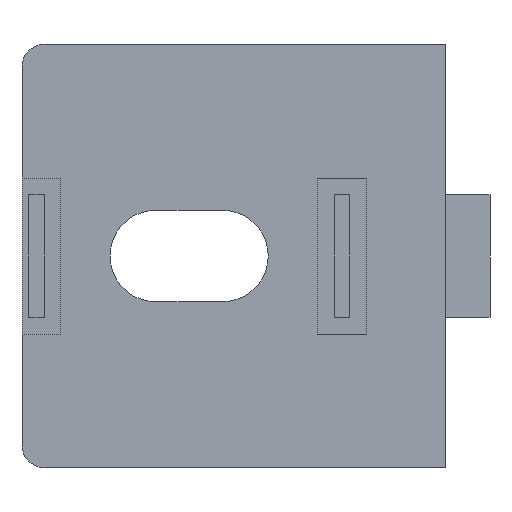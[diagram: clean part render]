
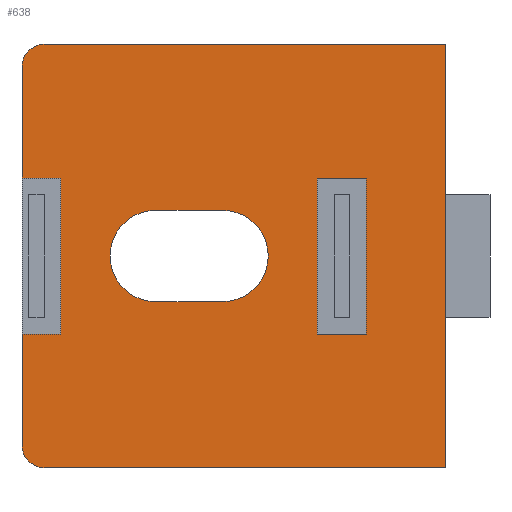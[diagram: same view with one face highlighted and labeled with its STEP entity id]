
A CAD part, front view. The second image highlights one B-rep face of the part: STEP entity #638.
In plain terms, the highlighted planar face has unit normal (0, -1, 0).
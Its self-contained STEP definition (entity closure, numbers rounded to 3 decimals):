
#141=CARTESIAN_POINT('',(18.,-20.0,-20.0));
#142=VERTEX_POINT('',#141);
#149=CARTESIAN_POINT('',(-18.0,-20.0,-20.0));
#150=VERTEX_POINT('',#149);
#151=CARTESIAN_POINT('',(18.,-20.0,-20.0));
#152=DIRECTION('',(-1.0,0.0,0.0));
#153=VECTOR('',#152,36.);
#154=LINE('',#151,#153);
#155=EDGE_CURVE('',#142,#150,#154,.T.);
#229=CARTESIAN_POINT('',(18.,-20.0,18.));
#230=VERTEX_POINT('',#229);
#237=CARTESIAN_POINT('',(18.,-20.0,-20.0));
#238=DIRECTION('',(0.0,0.0,1.0));
#239=VECTOR('',#238,38.0);
#240=LINE('',#237,#239);
#241=EDGE_CURVE('',#142,#230,#240,.T.);
#386=CARTESIAN_POINT('',(-20.0,-20.0,-18.0));
#387=VERTEX_POINT('',#386);
#388=CARTESIAN_POINT('',(-18.0,-20.0,-18.0));
#389=DIRECTION('',(0.0,1.0,0.0));
#390=DIRECTION('',(-0.707,0.0,-0.707));
#391=AXIS2_PLACEMENT_3D('',#388,#389,#390);
#392=CIRCLE('',#391,2.0);
#393=EDGE_CURVE('',#150,#387,#392,.T.);
#445=CARTESIAN_POINT('',(-20.0,-20.0,-8.0));
#446=VERTEX_POINT('',#445);
#447=CARTESIAN_POINT('',(-20.0,-20.0,-18.0));
#448=DIRECTION('',(0.0,0.0,1.0));
#449=VECTOR('',#448,10.0);
#450=LINE('',#447,#449);
#451=EDGE_CURVE('',#387,#446,#450,.T.);
#469=CARTESIAN_POINT('',(-20.0,-20.0,6.));
#470=VERTEX_POINT('',#469);
#477=CARTESIAN_POINT('',(-20.0,-20.0,16.));
#478=VERTEX_POINT('',#477);
#479=CARTESIAN_POINT('',(-20.0,-20.0,6.0));
#480=DIRECTION('',(0.0,0.0,1.0));
#481=VECTOR('',#480,10.);
#482=LINE('',#479,#481);
#483=EDGE_CURVE('',#470,#478,#482,.T.);
#519=CARTESIAN_POINT('',(18.,-20.0,-20.0));
#520=DIRECTION('',(0.0,-1.0,0.0));
#521=DIRECTION('',(0.0,0.0,-1.0));
#522=AXIS2_PLACEMENT_3D('',#519,#520,#521);
#523=PLANE('',#522);
#524=ORIENTED_EDGE('',*,*,#393,.F.);
#525=ORIENTED_EDGE('',*,*,#155,.F.);
#526=ORIENTED_EDGE('',*,*,#241,.T.);
#527=CARTESIAN_POINT('',(-18.0,-20.0,18.));
#528=VERTEX_POINT('',#527);
#529=CARTESIAN_POINT('',(18.,-20.0,18.));
#530=DIRECTION('',(-1.0,0.0,0.0));
#531=VECTOR('',#530,36.);
#532=LINE('',#529,#531);
#533=EDGE_CURVE('',#230,#528,#532,.T.);
#534=ORIENTED_EDGE('',*,*,#533,.T.);
#535=CARTESIAN_POINT('',(-18.0,-20.0,16.));
#536=DIRECTION('',(0.0,1.,0.0));
#537=DIRECTION('',(-0.707,0.0,0.707));
#538=AXIS2_PLACEMENT_3D('',#535,#536,#537);
#539=CIRCLE('',#538,2.);
#540=EDGE_CURVE('',#478,#528,#539,.T.);
#541=ORIENTED_EDGE('',*,*,#540,.F.);
#542=ORIENTED_EDGE('',*,*,#483,.F.);
#543=CARTESIAN_POINT('',(-16.5,-20.0,6.));
#544=VERTEX_POINT('',#543);
#545=CARTESIAN_POINT('',(-20.,-20.0,6.));
#546=DIRECTION('',(1.0,0.0,0.0));
#547=VECTOR('',#546,3.5);
#548=LINE('',#545,#547);
#549=EDGE_CURVE('',#470,#544,#548,.T.);
#550=ORIENTED_EDGE('',*,*,#549,.T.);
#551=CARTESIAN_POINT('',(-16.5,-20.0,-8.0));
#552=VERTEX_POINT('',#551);
#553=CARTESIAN_POINT('',(-16.5,-20.0,6.0));
#554=DIRECTION('',(0.0,0.0,-1.0));
#555=VECTOR('',#554,14.);
#556=LINE('',#553,#555);
#557=EDGE_CURVE('',#544,#552,#556,.T.);
#558=ORIENTED_EDGE('',*,*,#557,.T.);
#559=CARTESIAN_POINT('',(-16.5,-20.0,-8.));
#560=DIRECTION('',(-1.0,0.0,0.0));
#561=VECTOR('',#560,3.5);
#562=LINE('',#559,#561);
#563=EDGE_CURVE('',#552,#446,#562,.T.);
#564=ORIENTED_EDGE('',*,*,#563,.T.);
#565=ORIENTED_EDGE('',*,*,#451,.F.);
#566=EDGE_LOOP('',(#524,#525,#526,#534,#541,#542,#550,#558,#564,#565));
#567=FACE_OUTER_BOUND('',#566,.T.);
#568=CARTESIAN_POINT('',(-8.0,-20.0,3.1));
#569=VERTEX_POINT('',#568);
#570=CARTESIAN_POINT('',(-2.,-20.0,3.1));
#571=VERTEX_POINT('',#570);
#572=CARTESIAN_POINT('',(-8.,-20.0,3.1));
#573=DIRECTION('',(1.0,0.0,0.0));
#574=VECTOR('',#573,6.0);
#575=LINE('',#572,#574);
#576=EDGE_CURVE('',#569,#571,#575,.T.);
#577=ORIENTED_EDGE('',*,*,#576,.T.);
#578=CARTESIAN_POINT('',(-2.,-20.0,-5.1));
#579=VERTEX_POINT('',#578);
#580=CARTESIAN_POINT('',(-2.,-20.0,-1.));
#581=DIRECTION('',(0.0,1.0,0.0));
#582=DIRECTION('',(0.0,0.0,-1.0));
#583=AXIS2_PLACEMENT_3D('',#580,#581,#582);
#584=CIRCLE('',#583,4.1);
#585=EDGE_CURVE('',#571,#579,#584,.T.);
#586=ORIENTED_EDGE('',*,*,#585,.T.);
#587=CARTESIAN_POINT('',(-8.0,-20.0,-5.1));
#588=VERTEX_POINT('',#587);
#589=CARTESIAN_POINT('',(-2.0,-20.0,-5.1));
#590=DIRECTION('',(-1.0,0.0,0.0));
#591=VECTOR('',#590,6.0);
#592=LINE('',#589,#591);
#593=EDGE_CURVE('',#579,#588,#592,.T.);
#594=ORIENTED_EDGE('',*,*,#593,.T.);
#595=CARTESIAN_POINT('',(-8.,-20.0,-1.));
#596=DIRECTION('',(0.0,1.0,0.0));
#597=DIRECTION('',(0.0,0.0,1.0));
#598=AXIS2_PLACEMENT_3D('',#595,#596,#597);
#599=CIRCLE('',#598,4.1);
#600=EDGE_CURVE('',#588,#569,#599,.T.);
#601=ORIENTED_EDGE('',*,*,#600,.T.);
#602=EDGE_LOOP('',(#577,#586,#594,#601));
#603=FACE_BOUND('',#602,.T.);
#604=CARTESIAN_POINT('',(10.9,-20.0,-8.0));
#605=VERTEX_POINT('',#604);
#606=CARTESIAN_POINT('',(6.5,-20.0,-8.0));
#607=VERTEX_POINT('',#606);
#608=CARTESIAN_POINT('',(10.9,-20.0,-8.));
#609=DIRECTION('',(-1.0,0.0,0.0));
#610=VECTOR('',#609,4.4);
#611=LINE('',#608,#610);
#612=EDGE_CURVE('',#605,#607,#611,.T.);
#613=ORIENTED_EDGE('',*,*,#612,.T.);
#614=CARTESIAN_POINT('',(6.5,-20.0,6.));
#615=VERTEX_POINT('',#614);
#616=CARTESIAN_POINT('',(6.5,-20.0,-8.0));
#617=DIRECTION('',(0.0,0.0,1.0));
#618=VECTOR('',#617,14.0);
#619=LINE('',#616,#618);
#620=EDGE_CURVE('',#607,#615,#619,.T.);
#621=ORIENTED_EDGE('',*,*,#620,.T.);
#622=CARTESIAN_POINT('',(10.9,-20.0,6.));
#623=VERTEX_POINT('',#622);
#624=CARTESIAN_POINT('',(6.5,-20.0,6.));
#625=DIRECTION('',(1.0,0.0,0.0));
#626=VECTOR('',#625,4.4);
#627=LINE('',#624,#626);
#628=EDGE_CURVE('',#615,#623,#627,.T.);
#629=ORIENTED_EDGE('',*,*,#628,.T.);
#630=CARTESIAN_POINT('',(10.9,-20.0,6.0));
#631=DIRECTION('',(0.0,0.0,-1.0));
#632=VECTOR('',#631,14.);
#633=LINE('',#630,#632);
#634=EDGE_CURVE('',#623,#605,#633,.T.);
#635=ORIENTED_EDGE('',*,*,#634,.T.);
#636=EDGE_LOOP('',(#613,#621,#629,#635));
#637=FACE_BOUND('',#636,.T.);
#638=ADVANCED_FACE('',(#567,#603,#637),#523,.T.);
